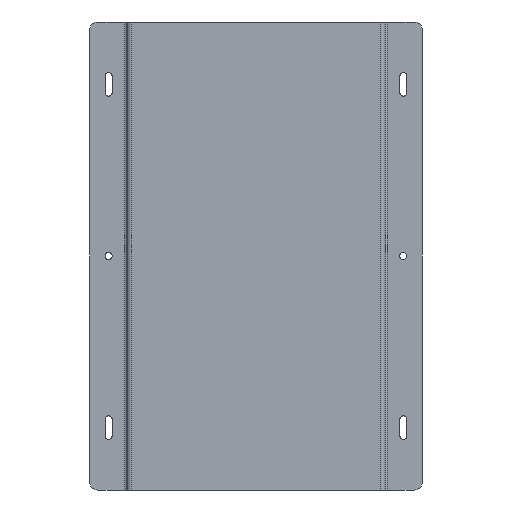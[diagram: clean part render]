
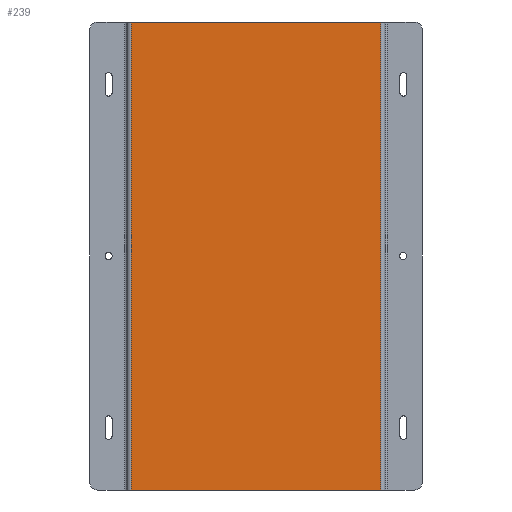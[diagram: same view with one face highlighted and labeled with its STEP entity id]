
A CAD part, front view. The second image highlights one B-rep face of the part: STEP entity #239.
In plain terms, the highlighted planar face has unit normal (0, -1, 0).
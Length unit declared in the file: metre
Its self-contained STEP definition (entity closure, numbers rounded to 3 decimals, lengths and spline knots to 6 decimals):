
#239=ADVANCED_FACE('NONE',(#564),#565,.F.);
#349=EDGE_CURVE('NONE',#744,#747,#748,.T.);
#409=EDGE_CURVE('NONE',#827,#828,#829,.T.);
#411=EDGE_CURVE('NONE',#744,#827,#831,.T.);
#564=FACE_OUTER_BOUND('',#970,.T.);
#565=PLANE('',#971);
#744=VERTEX_POINT('NONE',#1223);
#747=VERTEX_POINT('',#1227);
#748=LINE('',#1228,#1229);
#827=VERTEX_POINT('NONE',#1359);
#828=VERTEX_POINT('',#1360);
#829=LINE('',#1361,#1362);
#831=LINE('',#1365,#1366);
#970=EDGE_LOOP('',(#1698,#1699,#1700,#1701));
#971=AXIS2_PLACEMENT_3D('',#1702,#1703,#1704);
#1223=CARTESIAN_POINT('',(-0.0785,-0.0012,0.15));
#1227=CARTESIAN_POINT('',(0.0815,-0.0012,0.15));
#1228=CARTESIAN_POINT('',(0.0785,-0.0012,0.15));
#1229=VECTOR('',#1890,1.0);
#1359=CARTESIAN_POINT('',(-0.0785,-0.0012,-0.15));
#1360=CARTESIAN_POINT('',(0.0815,-0.0012,-0.15));
#1361=CARTESIAN_POINT('',(0.0785,-0.0012,-0.15));
#1362=VECTOR('',#1936,1.0);
#1365=CARTESIAN_POINT('',(-0.0785,-0.0012,0.15));
#1366=VECTOR('',#1937,1.0);
#1698=ORIENTED_EDGE('',*,*,#409,.T.);
#1699=ORIENTED_EDGE('',*,*,#2006,.T.);
#1700=ORIENTED_EDGE('',*,*,#349,.F.);
#1701=ORIENTED_EDGE('',*,*,#411,.T.);
#1702=CARTESIAN_POINT('',(0.0785,-0.0012,0.15));
#1703=DIRECTION('',(-0.0,1.0,0.0));
#1704=DIRECTION('',(1.0,0.0,0.0));
#1890=DIRECTION('',(1.0,0.0,0.0));
#1936=DIRECTION('',(1.0,0.0,0.0));
#1937=DIRECTION('',(-0.0,-0.0,-1.0));
#2006=EDGE_CURVE('0:252',#828,#747,#2092,.F.);
#2092=LINE('',#2198,#2199);
#2198=CARTESIAN_POINT('',(0.0815,-0.0012,0.15));
#2199=VECTOR('',#2310,1.0);
#2310=DIRECTION('',(0.0,0.0,-1.0));
